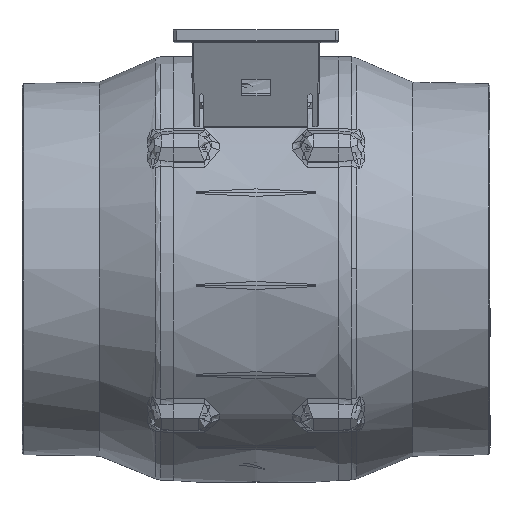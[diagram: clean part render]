
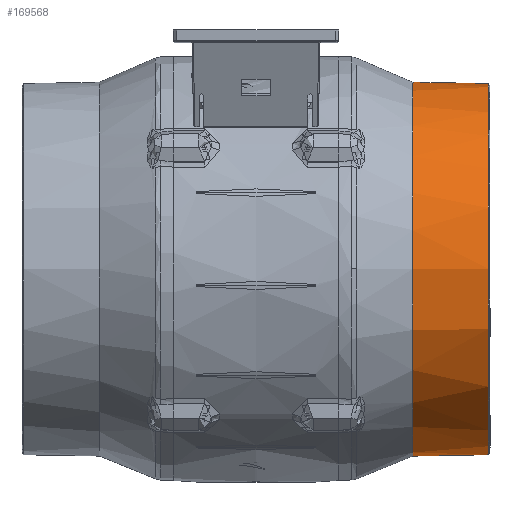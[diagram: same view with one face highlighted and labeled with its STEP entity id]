
A CAD part, top view. The second image highlights one B-rep face of the part: STEP entity #169568.
In plain terms, the highlighted free-form (B-spline) face has degree [2, 1] with [9, 2] control points.
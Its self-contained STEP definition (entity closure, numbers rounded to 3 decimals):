
#168487 = CARTESIAN_POINT ('', (187.375, 0., 79.273));
#168488 = VERTEX_POINT ('', #168487);
#168494 = CARTESIAN_POINT ('', (187.375, 0., -79.273));
#168495 = VERTEX_POINT ('', #168494);
#168496 = CARTESIAN_POINT ('', (187.375, 0., -79.273));
#168497 = CARTESIAN_POINT ('', (187.375, 79.273, -79.273));
#168498 = CARTESIAN_POINT ('', (187.375, 79.273, 0.));
#168499 = CARTESIAN_POINT ('', (187.375, 79.273, 79.273));
#168500 = CARTESIAN_POINT ('', (187.375, 0., 79.273));
#168501 = (
   BOUNDED_CURVE ()
   B_SPLINE_CURVE (2, (#168496, #168497, #168498, #168499, #168500), .UNSPECIFIED., .F., .U.)
   B_SPLINE_CURVE_WITH_KNOTS ((3, 2, 3), (0., 90., 180.), .UNSPECIFIED.)
   CURVE ()
   GEOMETRIC_REPRESENTATION_ITEM ()
   RATIONAL_B_SPLINE_CURVE ((1., 0.707, 1., 0.707, 1.))
   REPRESENTATION_ITEM ('')
);
#168502 = EDGE_CURVE ('', #168495, #168488, #168501, .T.);
#168504 = CARTESIAN_POINT ('', (187.375, 0., 79.273));
#168505 = CARTESIAN_POINT ('', (187.375, -79.273, 79.273));
#168506 = CARTESIAN_POINT ('', (187.375, -79.273, 0.));
#168507 = CARTESIAN_POINT ('', (187.375, -79.273, -79.273));
#168508 = CARTESIAN_POINT ('', (187.375, 0., -79.273));
#168509 = (
   BOUNDED_CURVE ()
   B_SPLINE_CURVE (2, (#168504, #168505, #168506, #168507, #168508), .UNSPECIFIED., .F., .U.)
   B_SPLINE_CURVE_WITH_KNOTS ((3, 2, 3), (180., 270., 360.), .UNSPECIFIED.)
   CURVE ()
   GEOMETRIC_REPRESENTATION_ITEM ()
   RATIONAL_B_SPLINE_CURVE ((1., 0.707, 1., 0.707, 1.))
   REPRESENTATION_ITEM ('')
);
#168510 = EDGE_CURVE ('', #168488, #168495, #168509, .T.);
#169519 = CARTESIAN_POINT ('', (219.312, 0., -78.715));
#169520 = VERTEX_POINT ('', #169519);
#169521 = CARTESIAN_POINT ('', (187.375, 0., -79.273));
#169522 = CARTESIAN_POINT ('', (219.312, 0., -78.715));
#169523 = B_SPLINE_CURVE_WITH_KNOTS ('', 1, (#169521, #169522), .UNSPECIFIED., .F., .U., (2, 2), (0., 1.), .UNSPECIFIED.);
#169524 = EDGE_CURVE ('', #168495, #169520, #169523, .T.);
#169525 = ORIENTED_EDGE ('', *, *, #169524, .T.);
#169526 = CARTESIAN_POINT ('', (219.312, 0., 78.715));
#169527 = VERTEX_POINT ('', #169526);
#169528 = CARTESIAN_POINT ('', (219.312, 0., -78.715));
#169529 = CARTESIAN_POINT ('', (219.312, -78.715, -78.715));
#169530 = CARTESIAN_POINT ('', (219.312, -78.715, 0.));
#169531 = CARTESIAN_POINT ('', (219.312, -78.715, 78.715));
#169532 = CARTESIAN_POINT ('', (219.312, 0., 78.715));
#169533 = (
   BOUNDED_CURVE ()
   B_SPLINE_CURVE (2, (#169528, #169529, #169530, #169531, #169532), .UNSPECIFIED., .F., .U.)
   B_SPLINE_CURVE_WITH_KNOTS ((3, 2, 3), (180., 270., 360.), .UNSPECIFIED.)
   CURVE ()
   GEOMETRIC_REPRESENTATION_ITEM ()
   RATIONAL_B_SPLINE_CURVE ((1., 0.707, 1., 0.707, 1.))
   REPRESENTATION_ITEM ('')
);
#169534 = EDGE_CURVE ('', #169520, #169527, #169533, .T.);
#169535 = ORIENTED_EDGE ('', *, *, #169534, .T.);
#169536 = CARTESIAN_POINT ('', (219.312, 0., 78.715));
#169537 = CARTESIAN_POINT ('', (219.312, 78.715, 78.715));
#169538 = CARTESIAN_POINT ('', (219.312, 78.715, 0.));
#169539 = CARTESIAN_POINT ('', (219.312, 78.715, -78.715));
#169540 = CARTESIAN_POINT ('', (219.312, 0., -78.715));
#169541 = (
   BOUNDED_CURVE ()
   B_SPLINE_CURVE (2, (#169536, #169537, #169538, #169539, #169540), .UNSPECIFIED., .F., .U.)
   B_SPLINE_CURVE_WITH_KNOTS ((3, 2, 3), (0., 90., 180.), .UNSPECIFIED.)
   CURVE ()
   GEOMETRIC_REPRESENTATION_ITEM ()
   RATIONAL_B_SPLINE_CURVE ((1., 0.707, 1., 0.707, 1.))
   REPRESENTATION_ITEM ('')
);
#169542 = EDGE_CURVE ('', #169527, #169520, #169541, .T.);
#169543 = ORIENTED_EDGE ('', *, *, #169542, .T.);
#169544 = ORIENTED_EDGE ('', *, *, #169524, .F.);
#169545 = ORIENTED_EDGE ('', *, *, #168502, .T.);
#169546 = ORIENTED_EDGE ('', *, *, #168510, .T.);
#169547 = EDGE_LOOP ('', (#169525, #169535, #169543, #169544, #169545, #169546));
#169548 = FACE_OUTER_BOUND ('', #169547, .T.);
#169549 = CARTESIAN_POINT ('', (219.313, 0., -78.715));
#169550 = CARTESIAN_POINT ('', (187.374, 0., -79.273));
#169551 = CARTESIAN_POINT ('', (219.313, -78.715, -78.715));
#169552 = CARTESIAN_POINT ('', (187.374, -79.273, -79.273));
#169553 = CARTESIAN_POINT ('', (219.313, -78.715, 0.));
#169554 = CARTESIAN_POINT ('', (187.374, -79.273, 0.));
#169555 = CARTESIAN_POINT ('', (219.313, -78.715, 78.715));
#169556 = CARTESIAN_POINT ('', (187.374, -79.273, 79.273));
#169557 = CARTESIAN_POINT ('', (219.313, 0., 78.715));
#169558 = CARTESIAN_POINT ('', (187.374, 0., 79.273));
#169559 = CARTESIAN_POINT ('', (219.313, 78.715, 78.715));
#169560 = CARTESIAN_POINT ('', (187.374, 79.273, 79.273));
#169561 = CARTESIAN_POINT ('', (219.313, 78.715, 0.));
#169562 = CARTESIAN_POINT ('', (187.374, 79.273, 0.));
#169563 = CARTESIAN_POINT ('', (219.313, 78.715, -78.715));
#169564 = CARTESIAN_POINT ('', (187.374, 79.273, -79.273));
#169565 = CARTESIAN_POINT ('', (219.313, 0., -78.715));
#169566 = CARTESIAN_POINT ('', (187.374, 0., -79.273));
#169567 = (
   BOUNDED_SURFACE ()
   B_SPLINE_SURFACE (2, 1, ((#169549, #169550), (#169551, #169552), (#169553, #169554), (#169555, #169556), (#169557, #169558), (#169559, #169560), (#169561, #169562), (#169563, #169564), (#169565, #169566)), .UNSPECIFIED., .T., .F., .U.)
   B_SPLINE_SURFACE_WITH_KNOTS ((3, 2, 2, 2, 3), (2, 2), (0., 0.25, 0.5, 0.75, 1.), (0., 1.), .UNSPECIFIED.)
   SURFACE ()
   GEOMETRIC_REPRESENTATION_ITEM ()
   RATIONAL_B_SPLINE_SURFACE (((1., 1.), (0.707, 0.707), (1., 1.), (0.707, 0.707), (1., 1.), (0.707, 0.707), (1., 1.), (0.707, 0.707), (1., 1.)))
   REPRESENTATION_ITEM ('')
);
#169568 = ADVANCED_FACE ('', (#169548), #169567, .T.);
